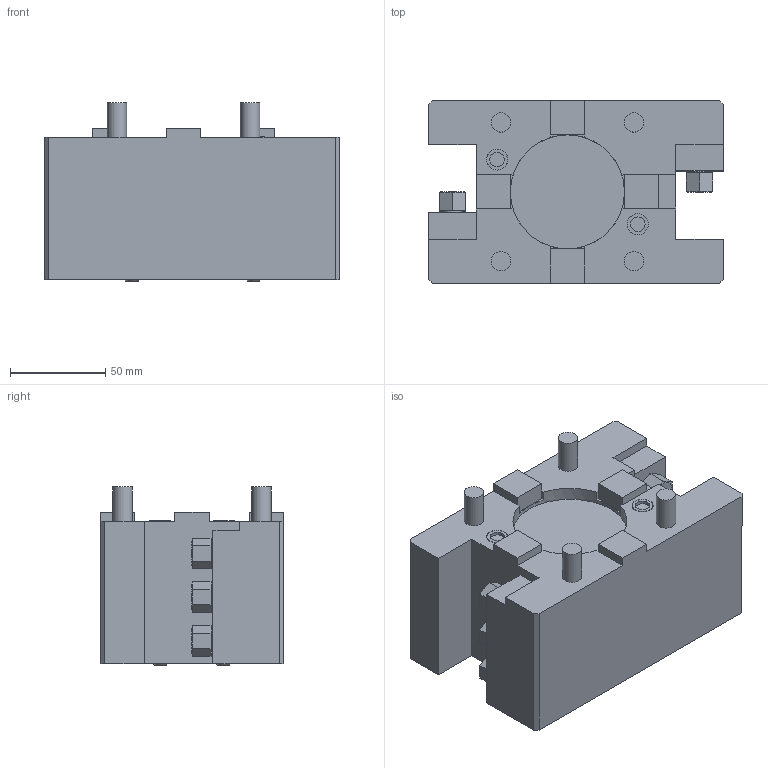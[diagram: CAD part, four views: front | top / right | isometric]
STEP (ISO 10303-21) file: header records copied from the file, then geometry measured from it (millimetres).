
FILE_DESCRIPTION(/* description */ (''),/* implementation_level */ '2;1');
FILE_NAME(/* name */ '197959-UNI',/* time_stamp */ '2022-01-04T12:43:54+01:00',/* author */ (''),/* organization */ (''),/* preprocessor_version */ 'ST-DEVELOPER v16.5',/* originating_system */ 'HiCAD 2017 2201.0 Build 268',/* authorisation */ '');
FILE_SCHEMA (('AUTOMOTIVE_DESIGN { 1 0 10303 214 1 1 1 1 }'));
Length unit declared in the file: millimetre
Products named in the file (2): Root; Teil
Assembly tree (1 placements, depth 2):
  Root
    Teil
Bounding box: 155 x 96 x 93.66 mm (x, y, z)
Volume: 972109 mm3; surface area: 87392.2 mm2
Topology: 1 solids, 1 shells, 231 faces, 534 edges, 343 vertices
Faces by surface type: plane 184, cylinder 29, cone 10, torus 4, sphere 4
Full cylindrical faces by diameter (mm): 6 x4, 7.65 x2, 9.6 x6, 10.2 x4, 11.01 x2, 11.1 x2, 18 x4, 20 x4, 60 x1
Entity records: 10847 total; most frequent: DIRECTION 1082, CARTESIAN_POINT 1031, PRESENTATION_STYLE_ASSIGNMENT 939, COLOUR_RGB 939, DRAUGHTING_PRE_DEFINED_CURVE_FONT 938, CURVE_STYLE 938, OVER_RIDING_STYLED_ITEM 938, ORIENTED_EDGE 938
